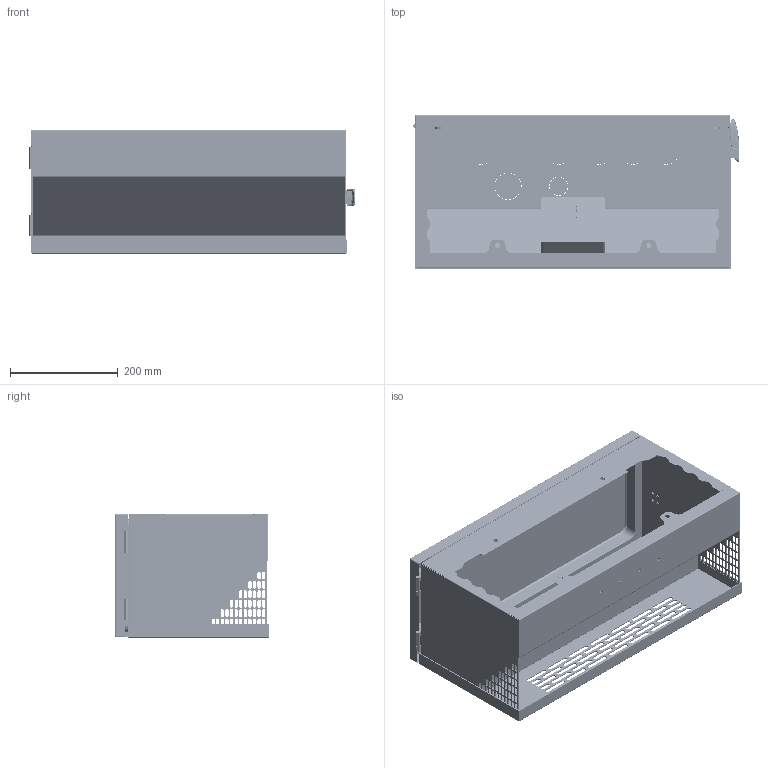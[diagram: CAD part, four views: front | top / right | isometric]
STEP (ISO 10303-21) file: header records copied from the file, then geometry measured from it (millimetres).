
FILE_DESCRIPTION (( 'STEP AP214' ), '1' );
FILE_NAME ('SolArkConduitBox.STEP', '2025-07-23T23:50:50', ( '' ), ( '' ), 'SwSTEP 2.0', 'SolidWorks 2020', '' );
FILE_SCHEMA (( 'AUTOMOTIVE_DESIGN' ));
Length unit declared in the file: millimetre
Products named in the file (30): 1-2_40; 2_10; ???-??; 1262-110-10_asm; 510-0009revd-box; heye-zhijia; 8_4; heye-02; s-m3-1; conduit-box-epdm; lynk; heye-01; ________4x10; SolArkConduitBox; 010_asm_24_asm; heye-zh_asm; 510-0009revd-lid; s-m4-1; nfh-m5x12; sw3dps-v7-20-101-50_keeper_any_; 00-???-??; sw3dps-v7-20-101-50_base_any_30; dks-1; 6_11; 4_27; ?????; 12_44; 3_35
Assembly tree (51 placements, depth 5):
  SolArkConduitBox
    00-???-??
      ???-??
      s-m4-1  x8
      s-m3-1  x4
      ???-??
      nfh-m5x12  x4
    heye-zh_asm  x2
      heye-01
      heye-02
      ________4x10
    ???-??
      ?????
      heye-zhijia  x2
      s-m4-1  x4
      s-m3-1  x2
      conduit-box-epdm
    dks-1
      1262-110-10_asm
        010_asm_24_asm
          2_10
          sw3dps-v7-20-101-50_base_any_30
          sw3dps-v7-20-101-50_keeper_any_
          4_27
          1-2_40
          3_35
          6_11
          8_4
          12_44
    lynk
      510-0009revd-lid
      510-0009revd-box
Bounding box: 604.25 x 285.5 x 229.5 mm (x, y, z)
Volume: 1180907.3 mm3; surface area: 1666245.2 mm2
Topology: 24 solids, 69 shells, 5986 faces, 15899 edges, 10125 vertices
Faces by surface type: plane 2513, cylinder 2390, cone 465, torus 289, bspline 248, sphere 81
Entity records: 135570 total; most frequent: CARTESIAN_POINT 44299, ORIENTED_EDGE 19286, DIRECTION 18189, EDGE_CURVE 9649, AXIS2_PLACEMENT_3D 6601, VERTEX_POINT 6040, LINE 4987, VECTOR 4987
